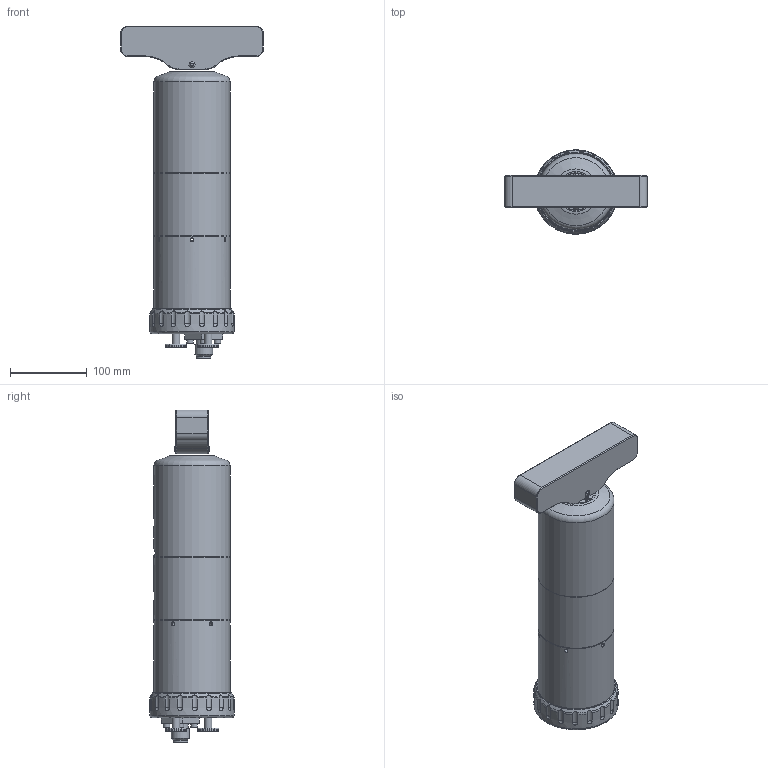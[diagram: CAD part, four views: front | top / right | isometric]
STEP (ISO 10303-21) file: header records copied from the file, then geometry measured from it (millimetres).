
FILE_DESCRIPTION (( 'STEP AP214' ), '1' );
FILE_NAME ('Hammerhead DST Sonar 675-935 V6 5506 Conn.STEP', '2015-05-21T13:09:53', ( 'Admin' ), ( 'Microsoft' ), 'SwSTEP 2.0', 'SolidWorks 2013', '' );
FILE_SCHEMA (( 'AUTOMOTIVE_DESIGN' ));
Length unit declared in the file: millimetre
Products named in the file (1): Hammerhead DST Sonar 675-935 V6 5506 Conn
Bounding box: 186 x 109.59 x 432.05 mm (x, y, z)
Surface area: 179308.7 mm2 (no closed solid volume)
Topology: 0 solids, 47 shells, 328 faces, 1104 edges, 788 vertices
Faces by surface type: plane 139, cylinder 73, torus 54, cone 37, sphere 20, bspline 5
Full cylindrical faces by diameter (mm): 1.47 x8, 4 x6, 5.5 x2, 8.5 x4, 9.62 x1, 9.8 x2, 10 x3, 12 x1, 19.3 x1, 20.3 x1, 23.7 x1, 28 x2, 47.9 x1, 89.85 x2, 91.55 x1, 98.95 x3, 100.54 x1, 109.64 x1
Entity records: 17146 total; most frequent: CARTESIAN_POINT 4869, DIRECTION 1747, ORIENTED_EDGE 1448, EDGE_CURVE 946, VERTEX_POINT 744, AXIS2_PLACEMENT_3D 606, VECTOR 535, LINE 535
